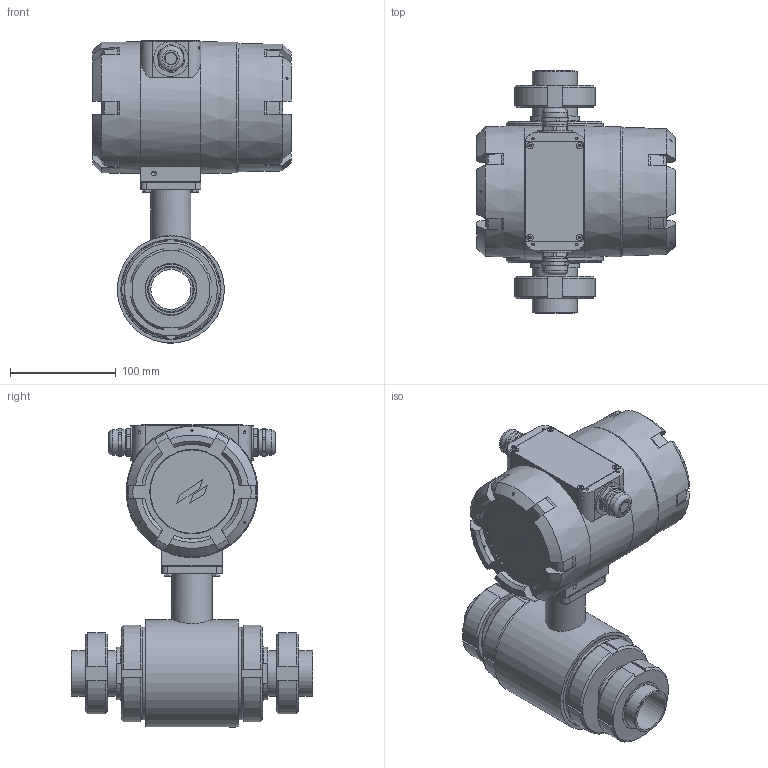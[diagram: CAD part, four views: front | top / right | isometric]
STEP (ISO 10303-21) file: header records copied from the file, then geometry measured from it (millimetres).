
FILE_DESCRIPTION(('STEP AP214'), '1');
FILE_NAME('ÂÇËÅÒ ÒÝÐ DN40 ïèùåâîé', '', ('UNSPECIFIED'), ('UNSPECIFIED'), 'ASCON STEP Converter 1.6', 'ASCON Math Kernel', '');
FILE_SCHEMA(('AUTOMOTIVE_DESIGN { 1 0 10303 214 3 1 1}'));
Length unit declared in the file: millimetre
Products named in the file (1): 婽挭.407212.002-04.01
Bounding box: 188 x 229.34 x 287.93 mm (x, y, z)
Volume: 1554333.6 mm3; surface area: 471715.3 mm2
Topology: 6 solids, 8 shells, 917 faces, 2284 edges, 1484 vertices
Faces by surface type: plane 455, cylinder 253, cone 153, torus 41, bspline 14, sphere 1
Full cylindrical faces by diameter (mm): 2 x10, 2.459 x4, 3.959 x10, 4 x9, 4.459 x1, 5 x4, 5.6 x1, 6 x12, 8 x2, 10 x4, 12 x2, 14.917 x2, 15 x2, 16 x3, 17.835 x1, 18.376 x1, 19 x2, 19.2 x2, 19.7 x2, 20 x2, 20.1 x2, 22 x2, 23 x1, 24 x4, 30 x3, 32.5 x1, 33 x2, 38 x6, 39 x2, 40.5 x1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
Entity records: 53017 total; most frequent: CARTESIAN_POINT 24857, DIRECTION 4173, ORIENTED_EDGE 4050, EDGE_CURVE 2025, AXIS2_PLACEMENT_3D 1673, VERTEX_POINT 1475, EDGE_LOOP 1354, FACE_BOUND 973
